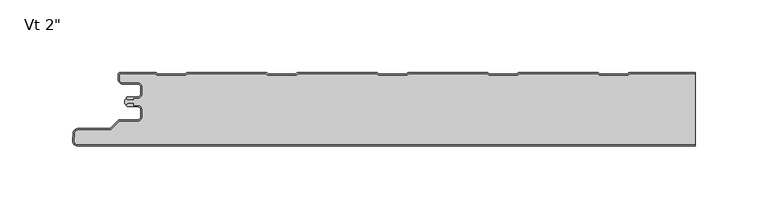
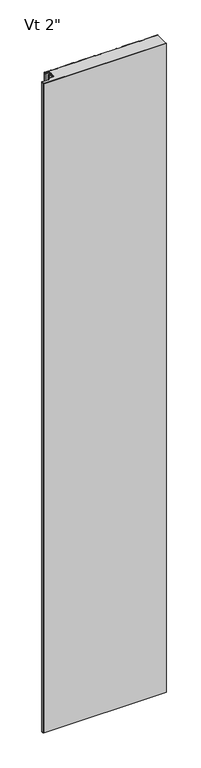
"""IFC4 building model written with IfcOpenShell, lengths in millimetres: plate geometry."""

from ifc_helpers import new_model, si_unit, point, frame, frame_2d, origin, origin_with_axes, place, context, project, spatial, polyline, circle_curve, trimmed, segment, composite_curve, outline, extrude, source, transform, mapped, element, save
from ifc_brep_helpers import plane_surface, cylinder_surface, revolved_surface, advanced_brep


def plate_e7e5032e(model_context):
    return source(origin(), model_context, "Body", "SolidModel", [
        advanced_brep(
        [(-195.5683, -22.4708751, 2400.0), (-194.367176, -21.3014003, 2400.0), (-190.6087826, -21.3014003, 2400.0), (-190.6087826, -22.6998792, 2400.0), (-187.9096715, -22.6998792, 2400.0), (-184.5596762, -26.0498745, 2400.0), (-184.5596762, -30.4498657, 2400.0), (-187.9096715, -33.799861, 2400.0), (-199.7205606, -33.799861, 2400.0), (-200.9226383, -34.2977779, 2400.0), (-206.4247094, -39.799849, 2400.0), (-228.519839, -39.7998491, 2400.0), (-231.1765707, -42.0184511, 2400.0), (-231.6125697, -47.0002719, 2400.0), (-229.0521174, -49.7945969, 2400.0), (196.5999999, -49.7999994, 2400.0), (196.5999998, -1.0063437, 2400.0), (151.3798585, -1.0063437, 2400.0), (149.9942255, -2.2065745, 2400.0), (130.6190592, -2.2065745, 2400.0), (129.2334262, -1.0063438, 2400.0), (75.1800109, -1.0063439, 2400.0), (73.7943779, -2.2065746, 2400.0), (54.4192116, -2.2065746, 2400.0), (53.0335786, -1.0063439, 2400.0), (-1.0198367, -1.006344, 2400.0), (-2.4054697, -2.2065747, 2400.0), (-21.780636, -2.2065748, 2400.0), (-23.166269, -1.0063441, 2400.0), (-77.2196843, -1.0063442, 2400.0), (-78.6053173, -2.2065749, 2400.0), (-97.9804836, -2.2065749, 2400.0), (-99.3661166, -1.0063442, 2400.0), (-153.4195319, -1.0063443, 2400.0), (-154.8051649, -2.206575, 2400.0), (-174.1803312, -2.206575, 2400.0), (-175.5659738, -1.006336, 2400.0), (-200.0662505, -1.006336, 2400.0), (-200.0662504, -5.2378833, 2400.0), (-198.2962563, -7.0078775, 2400.0), (-187.8762777, -7.0078775, 2400.0), (-184.5762818, -10.3078733, 2400.0), (-184.5762818, -14.7078646, 2400.0), (-187.8762775, -18.0078603, 2400.0), (-190.5684873, -18.0078603, 2400.0), (-190.5684873, -19.0078548, 2400.0), (-194.568691, -19.0078548, 2400.0), (-195.5686882, -18.0078635, 2400.0), (-196.5999999, -19.0391752, 2400.0), (-196.5999998, -21.4391752, 2400.0), (-195.5683, -22.4708751, 0.0), (-196.5999998, -21.4391752, 0.0), (-196.5999999, -19.0391752, 0.0), (-195.5686882, -18.0078635, 0.0), (-194.568691, -19.0078548, 0.0), (-190.5684873, -19.0078548, 0.0), (-190.5684873, -18.0078603, 0.0), (-187.8762775, -18.0078603, 0.0), (-184.5762818, -14.7078646, 0.0), (-184.5762818, -10.3078733, 0.0), (-187.8762777, -7.0078775, 0.0), (-198.2962563, -7.0078775, 0.0), (-200.0662504, -5.2378833, 0.0), (-200.0662505, -1.006336, 0.0), (-175.5659738, -1.006336, 0.0), (-174.1803312, -2.206575, 0.0), (-154.8051649, -2.206575, 0.0), (-153.4195319, -1.0063443, 0.0), (-99.3661166, -1.0063442, 0.0), (-97.9804836, -2.2065749, 0.0), (-78.6053173, -2.2065749, 0.0), (-77.2196843, -1.0063442, 0.0), (-23.166269, -1.0063441, 0.0), (-21.780636, -2.2065748, 0.0), (-2.4054697, -2.2065747, 0.0), (-1.0198367, -1.006344, 0.0), (53.0335786, -1.0063439, 0.0), (54.4192116, -2.2065746, 0.0), (73.7943779, -2.2065746, 0.0), (75.1800109, -1.0063439, 0.0), (129.2334262, -1.0063438, 0.0), (130.6190592, -2.2065745, 0.0), (149.9942255, -2.2065745, 0.0), (151.3798585, -1.0063437, 0.0), (196.5999998, -1.0063437, 0.0), (196.5999999, -49.7999994, 0.0), (-229.0521174, -49.8000001, 0.0), (-231.6125697, -47.0002719, 0.0), (-231.1765707, -42.0184511, 0.0), (-228.519839, -39.7998491, 0.0), (-206.4247094, -39.799849, 0.0), (-200.9226383, -34.2977779, 0.0), (-199.7205606, -33.799861, 0.0), (-187.9096715, -33.799861, 0.0), (-184.5596762, -30.4498657, 0.0), (-184.5596762, -26.0498745, 0.0), (-187.9096715, -22.6998792, 0.0), (-190.6087826, -22.6998792, 0.0), (-190.6087826, -21.3014003, 0.0), (-194.367176, -21.3014003, 0.0)],
        [
            (0, 1, circle_curve(frame((-194.3686906, -22.501397, 2400.0), z_axis=(0.0, 0.0, -1.0), x_axis=(-1.0, -1.788615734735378e-09, 0.0)), 1.1999976)),
            (1, 2),
            (2, 3),
            (3, 4),
            (4, 5, circle_curve(frame((-187.9096715, -26.0498745, 2400.0), z_axis=(0.0, 0.0, -1.0), x_axis=(-1.0, -1.788615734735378e-09, 0.0)), 3.3499953)),
            (5, 6),
            (6, 7, circle_curve(frame((-187.9096715, -30.4498657, 2400.0), z_axis=(0.0, 0.0, -1.0), x_axis=(-1.0, -1.788615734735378e-09, 0.0)), 3.3499953)),
            (7, 8),
            (8, 9, circle_curve(frame((-199.7205606, -35.4998556, 2400.0), z_axis=(0.0, 0.0, 1.0), x_axis=(-1.0, -1.788615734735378e-09, 0.0)), 1.6999946)),
            (9, 10),
            (10, 11),
            (11, 12, circle_curve(frame((-228.519839, -42.4998417, 2400.0), z_axis=(0.0, 0.0, 1.0), x_axis=(-1.0, -1.788615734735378e-09, 0.0)), 2.6999926)),
            (12, 13),
            (13, 14, circle_curve(frame((-229.0521174, -47.2243576, 2400.0), z_axis=(0.0, 0.0, 1.0), x_axis=(-1.0, -1.788615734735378e-09, 0.0)), 2.5702393)),
            (14, 15),
            (15, 16),
            (16, 17),
            (17, 18),
            (18, 19),
            (19, 20),
            (20, 21),
            (21, 22),
            (22, 23),
            (23, 24),
            (24, 25),
            (25, 26),
            (26, 27),
            (27, 28),
            (28, 29),
            (29, 30),
            (30, 31),
            (31, 32),
            (32, 33),
            (33, 34),
            (34, 35),
            (35, 36),
            (36, 37),
            (37, 38),
            (38, 39, circle_curve(frame((-198.2962563, -5.2378833, 2400.0), z_axis=(0.0, 0.0, 1.0), x_axis=(-1.0, -1.788615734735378e-09, 0.0)), 1.7699942)),
            (39, 40),
            (40, 41, circle_curve(frame((-187.8762777, -10.3078734, 2400.0), z_axis=(0.0, 0.0, -1.0), x_axis=(-1.0, -1.788615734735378e-09, 0.0)), 3.2999959)),
            (41, 42),
            (42, 43, circle_curve(frame((-187.8762775, -14.7078646, 2400.0), z_axis=(0.0, 0.0, -1.0), x_axis=(-1.0, -1.788615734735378e-09, 0.0)), 3.2999957)),
            (43, 44),
            (44, 45),
            (45, 46),
            (46, 47, circle_curve(frame((-194.568691, -18.0078576, 2400.0), z_axis=(0.0, 0.0, -1.0), x_axis=(-1.0, -1.788615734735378e-09, 0.0)), 0.9999972)),
            (47, 48),
            (48, 49),
            (49, 0),
            (50, 51),
            (51, 52),
            (52, 53),
            (53, 54, circle_curve(frame((-194.568691, -18.0078576, 0.0), z_axis=(0.0, 0.0, 1.0), x_axis=(-1.0, -1.788615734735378e-09, 0.0)), 0.9999972)),
            (54, 55),
            (55, 56),
            (56, 57),
            (57, 58, circle_curve(frame((-187.8762775, -14.7078646, 0.0), z_axis=(0.0, 0.0, 1.0), x_axis=(-1.0, -1.788615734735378e-09, 0.0)), 3.2999957)),
            (58, 59),
            (59, 60, circle_curve(frame((-187.8762777, -10.3078734, 0.0), z_axis=(0.0, 0.0, 1.0), x_axis=(-1.0, -1.788615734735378e-09, 0.0)), 3.2999959)),
            (60, 61),
            (61, 62, circle_curve(frame((-198.2962563, -5.2378833, 0.0), z_axis=(0.0, 0.0, -1.0), x_axis=(-1.0, -1.788615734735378e-09, 0.0)), 1.7699942)),
            (62, 63),
            (63, 64),
            (64, 65),
            (65, 66),
            (66, 67),
            (67, 68),
            (68, 69),
            (69, 70),
            (70, 71),
            (71, 72),
            (72, 73),
            (73, 74),
            (74, 75),
            (75, 76),
            (76, 77),
            (77, 78),
            (78, 79),
            (79, 80),
            (80, 81),
            (81, 82),
            (82, 83),
            (83, 84),
            (84, 85),
            (85, 86),
            (86, 87, circle_curve(frame((-229.0521174, -47.2243576, 0.0), z_axis=(0.0, 0.0, -1.0), x_axis=(-1.0, -1.788615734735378e-09, 0.0)), 2.5702393)),
            (87, 88),
            (88, 89, circle_curve(frame((-228.519839, -42.4998417, 0.0), z_axis=(0.0, 0.0, -1.0), x_axis=(-1.0, -1.788615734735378e-09, 0.0)), 2.6999926)),
            (89, 90),
            (90, 91),
            (91, 92, circle_curve(frame((-199.7205606, -35.4998556, 0.0), z_axis=(0.0, 0.0, -1.0), x_axis=(-1.0, -1.788615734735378e-09, 0.0)), 1.6999946)),
            (92, 93),
            (93, 94, circle_curve(frame((-187.9096715, -30.4498657, 0.0), z_axis=(0.0, 0.0, 1.0), x_axis=(-1.0, -1.788615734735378e-09, 0.0)), 3.3499953)),
            (94, 95),
            (95, 96, circle_curve(frame((-187.9096715, -26.0498745, 0.0), z_axis=(0.0, 0.0, 1.0), x_axis=(-1.0, -1.788615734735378e-09, 0.0)), 3.3499953)),
            (96, 97),
            (97, 98),
            (98, 99),
            (99, 50, circle_curve(frame((-194.3686906, -22.501397, 0.0), z_axis=(0.0, 0.0, 1.0), x_axis=(-1.0, -1.788615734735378e-09, 0.0)), 1.1999976)),
            (49, 51),
            (50, 0),
            (48, 52),
            (47, 53),
            (46, 54),
            (45, 55),
            (44, 56),
            (43, 57),
            (42, 58),
            (41, 59),
            (40, 60),
            (39, 61),
            (38, 62),
            (37, 63),
            (85, 15),
            (14, 86),
            (13, 87),
            (12, 88),
            (11, 89),
            (10, 90),
            (9, 91),
            (8, 92),
            (7, 93),
            (6, 94),
            (5, 95),
            (4, 96),
            (3, 97),
            (2, 98),
            (1, 99),
            (84, 16),
            (36, 64),
            (35, 65),
            (34, 66),
            (33, 67),
            (32, 68),
            (31, 69),
            (30, 70),
            (29, 71),
            (28, 72),
            (27, 73),
            (26, 74),
            (25, 75),
            (24, 76),
            (23, 77),
            (22, 78),
            (21, 79),
            (20, 80),
            (19, 81),
            (18, 82),
            (17, 83),
        ],
        [
            plane_surface(frame((336.8000002, -49.7999991, 2400.0), z_axis=(0.0, 0.0, 1.0), x_axis=(1.788615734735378e-09, -1.0, 0.0))),
            plane_surface(frame((336.8000002, -49.7999991, 0.0), z_axis=(0.0, 0.0, -1.0), x_axis=(1.788615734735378e-09, -1.0, 0.0))),
            plane_surface(frame((-195.5683, -22.4708751, 2400.0), z_axis=(-0.707106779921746, -0.7071067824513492, 0.0), x_axis=(0.0, 0.0, -1.0))),
            plane_surface(frame((-196.5999998, -21.4391752, 2400.0), z_axis=(-1.0, -1.788615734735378e-09, 0.0), x_axis=(0.0, 0.0, -1.0))),
            plane_surface(frame((-196.5999999, -19.0391752, 2400.0), z_axis=(-0.7071067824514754, 0.7071067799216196, 0.0), x_axis=(0.0, 0.0, -1.0))),
            revolved_surface(polyline([(-195.5686882, -18.00785760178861, 0.0), (-195.5686882, -18.00785760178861, 2400.0)]), (-194.568691, -18.0078576, 2400.0), (0.0, 0.0, -1.0)),
            plane_surface(frame((-194.568691, -19.0078548, 2400.0), z_axis=(-1.788615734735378e-09, 1.0, 0.0), x_axis=(0.0, 0.0, -1.0))),
            plane_surface(frame((-190.5684873, -19.0078548, 2400.0), z_axis=(-1.0, -1.788615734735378e-09, 0.0), x_axis=(0.0, 0.0, -1.0))),
            plane_surface(frame((-190.5684873, -18.0078603, 2400.0), z_axis=(-1.788615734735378e-09, 1.0, 0.0), x_axis=(0.0, 0.0, -1.0))),
            revolved_surface(polyline([(-191.1762732, -14.707864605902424, 0.0), (-191.1762732, -14.707864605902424, 2400.0)]), (-187.8762775, -14.7078646, 2400.0), (0.0, 0.0, -1.0)),
            plane_surface(frame((-184.5762818, -14.7078646, 2400.0), z_axis=(-1.0, -1.788615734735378e-09, 0.0), x_axis=(0.0, 0.0, -1.0))),
            revolved_surface(polyline([(-191.1762736, -10.307873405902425, 0.0), (-191.1762736, -10.307873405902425, 2400.0)]), (-187.8762777, -10.3078734, 2400.0), (0.0, 0.0, -1.0)),
            plane_surface(frame((-187.8762777, -7.0078775, 2400.0), z_axis=(1.788615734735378e-09, -1.0, 0.0), x_axis=(0.0, 0.0, -1.0))),
            cylinder_surface(frame((-198.2962563, -5.2378833, 2400.0), z_axis=(0.0, 0.0, 1.0), x_axis=(-1.0, -1.788615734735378e-09, 0.0)), 1.7699942),
            plane_surface(frame((-200.0662504, -5.2378833, 2400.0), z_axis=(-1.0, -1.788615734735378e-09, 0.0), x_axis=(0.0, 0.0, -1.0))),
            plane_surface(frame((828.0656222, -49.7999982, 2400.0), z_axis=(1.7886092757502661e-09, -1.0, 0.0), x_axis=(0.0, 0.0, -1.0))),
            cylinder_surface(frame((-229.0521174, -47.2243576, 2400.0), z_axis=(0.0, 0.0, 1.0), x_axis=(-1.0, -1.788615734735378e-09, 0.0)), 2.5702393),
            plane_surface(frame((-231.6125697, -47.0002719, 2400.0), z_axis=(-0.9961921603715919, 0.08718474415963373, 0.0), x_axis=(0.0, 0.0, -1.0))),
            cylinder_surface(frame((-228.519839, -42.4998417, 2400.0), z_axis=(0.0, 0.0, 1.0), x_axis=(-1.0, -1.788615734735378e-09, 0.0)), 2.6999926),
            plane_surface(frame((-228.519839, -39.7998491, 2400.0), z_axis=(-1.7886092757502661e-09, 1.0, 0.0), x_axis=(0.0, 0.0, -1.0))),
            plane_surface(frame((-206.4247094, -39.799849, 2400.0), z_axis=(-0.7071067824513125, 0.7071067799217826, 0.0), x_axis=(0.0, 0.0, -1.0))),
            cylinder_surface(frame((-199.7205606, -35.4998556, 2400.0), z_axis=(0.0, 0.0, 1.0), x_axis=(-1.0, -1.788615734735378e-09, 0.0)), 1.6999946),
            plane_surface(frame((-199.7205606, -33.799861, 2400.0), z_axis=(-1.7886092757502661e-09, 1.0, 0.0), x_axis=(0.0, 0.0, -1.0))),
            revolved_surface(polyline([(-191.2596668, -30.449865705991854, 0.0), (-191.2596668, -30.449865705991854, 2400.0)]), (-187.9096715, -30.4498657, 2400.0), (0.0, 0.0, -1.0)),
            plane_surface(frame((-184.5596762, -30.4498657, 2400.0), z_axis=(-1.0, -1.7886092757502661e-09, 0.0), x_axis=(0.0, 0.0, -1.0))),
            revolved_surface(polyline([(-191.2596668, -26.049874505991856, 0.0), (-191.2596668, -26.049874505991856, 2400.0)]), (-187.9096715, -26.0498745, 2400.0), (0.0, 0.0, -1.0)),
            plane_surface(frame((-187.9096715, -22.6998792, 2400.0), z_axis=(1.7886092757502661e-09, -1.0, 0.0), x_axis=(0.0, 0.0, -1.0))),
            plane_surface(frame((-190.6087826, -22.6998792, 2400.0), z_axis=(-1.0, -1.7886092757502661e-09, 0.0), x_axis=(0.0, 0.0, -1.0))),
            plane_surface(frame((-190.6087826, -21.3014003, 2400.0), z_axis=(1.7886092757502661e-09, -1.0, 0.0), x_axis=(0.0, 0.0, -1.0))),
            revolved_surface(polyline([(-195.5686882, -22.501397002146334, 0.0), (-195.5686882, -22.501397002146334, 2400.0)]), (-194.3686906, -22.501397, 2400.0), (0.0, 0.0, -1.0)),
            plane_surface(frame((196.5999999, -60.7999994, 2400.0), z_axis=(1.0, 1.7886125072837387e-09, 0.0), x_axis=(0.0, 0.0, -1.0))),
            plane_surface(frame((-200.0662505, -1.006336, 2400.0), z_axis=(-1.788615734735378e-09, 1.0, 0.0), x_axis=(0.0, 0.0, -1.0))),
            plane_surface(frame((-175.5659738, -1.006336, 2400.0), z_axis=(0.6547276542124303, 0.7558648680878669, 0.0), x_axis=(0.0, 0.0, -1.0))),
            plane_surface(frame((-174.1803312, -2.206575, 2400.0), z_axis=(-1.788615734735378e-09, 1.0, 0.0), x_axis=(0.0, 0.0, -1.0))),
            plane_surface(frame((-154.8051649, -2.206575, 2400.0), z_axis=(-0.6547276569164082, 0.7558648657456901, 0.0), x_axis=(0.0, 0.0, -1.0))),
            plane_surface(frame((-153.4195319, -1.0063443, 2400.0), z_axis=(-1.788615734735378e-09, 1.0, 0.0), x_axis=(0.0, 0.0, -1.0))),
            plane_surface(frame((-99.3661166, -1.0063442, 2400.0), z_axis=(0.654727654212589, 0.7558648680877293, 0.0), x_axis=(0.0, 0.0, -1.0))),
            plane_surface(frame((-97.9804836, -2.2065749, 2400.0), z_axis=(-1.788615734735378e-09, 1.0, 0.0), x_axis=(0.0, 0.0, -1.0))),
            plane_surface(frame((-78.6053173, -2.2065749, 2400.0), z_axis=(-0.6547276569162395, 0.7558648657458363, 0.0), x_axis=(0.0, 0.0, -1.0))),
            plane_surface(frame((-77.2196843, -1.0063442, 2400.0), z_axis=(-1.788615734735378e-09, 1.0, 0.0), x_axis=(0.0, 0.0, -1.0))),
            plane_surface(frame((-23.166269, -1.0063441, 2400.0), z_axis=(0.6547276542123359, 0.7558648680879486, 0.0), x_axis=(0.0, 0.0, -1.0))),
            plane_surface(frame((-21.780636, -2.2065748, 2400.0), z_axis=(-1.788615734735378e-09, 1.0, 0.0), x_axis=(0.0, 0.0, -1.0))),
            plane_surface(frame((-2.4054697, -2.2065747, 2400.0), z_axis=(-0.6547276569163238, 0.7558648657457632, 0.0), x_axis=(0.0, 0.0, -1.0))),
            plane_surface(frame((-1.0198367, -1.006344, 2400.0), z_axis=(-1.788615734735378e-09, 1.0, 0.0), x_axis=(0.0, 0.0, -1.0))),
            plane_surface(frame((53.0335786, -1.0063439, 2400.0), z_axis=(0.6547276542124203, 0.7558648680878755, 0.0), x_axis=(0.0, 0.0, -1.0))),
            plane_surface(frame((54.4192116, -2.2065746, 2400.0), z_axis=(-1.788615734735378e-09, 1.0, 0.0), x_axis=(0.0, 0.0, -1.0))),
            plane_surface(frame((73.7943779, -2.2065746, 2400.0), z_axis=(-0.6547276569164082, 0.7558648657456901, 0.0), x_axis=(0.0, 0.0, -1.0))),
            plane_surface(frame((75.1800109, -1.0063439, 2400.0), z_axis=(-1.788615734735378e-09, 1.0, 0.0), x_axis=(0.0, 0.0, -1.0))),
            plane_surface(frame((129.2334262, -1.0063438, 2400.0), z_axis=(0.6547276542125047, 0.7558648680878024, 0.0), x_axis=(0.0, 0.0, -1.0))),
            plane_surface(frame((130.6190592, -2.2065745, 2400.0), z_axis=(-1.788615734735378e-09, 1.0, 0.0), x_axis=(0.0, 0.0, -1.0))),
            plane_surface(frame((149.9942255, -2.2065745, 2400.0), z_axis=(-0.6547276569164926, 0.7558648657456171, 0.0), x_axis=(0.0, 0.0, -1.0))),
            plane_surface(frame((151.3798585, -1.0063437, 2400.0), z_axis=(-1.788615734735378e-09, 1.0, 0.0), x_axis=(0.0, 0.0, -1.0))),
        ],
        [
            (0, [[1, 2, 3, 4, 5, 6, 7, 8, 9, 10, 11, 12, 13, 14, 15, 16, 17, 18, 19, 20, 21, 22, 23, 24, 25, 26, 27, 28, 29, 30, 31, 32, 33, 34, 35, 36, 37, 38, 39, 40, 41, 42, 43, 44, 45, 46, 47, 48, 49, 50]]),
            (1, [[51, 52, 53, 54, 55, 56, 57, 58, 59, 60, 61, 62, 63, 64, 65, 66, 67, 68, 69, 70, 71, 72, 73, 74, 75, 76, 77, 78, 79, 80, 81, 82, 83, 84, 85, 86, 87, 88, 89, 90, 91, 92, 93, 94, 95, 96, 97, 98, 99, 100]]),
            (2, [[101, -51, 102, -50]]),
            (3, [[103, -52, -101, -49]]),
            (4, [[104, -53, -103, -48]]),
            (5, [[105, -54, -104, -47]]),
            (6, [[106, -55, -105, -46]]),
            (7, [[107, -56, -106, -45]]),
            (8, [[108, -57, -107, -44]]),
            (9, [[109, -58, -108, -43]]),
            (10, [[110, -59, -109, -42]]),
            (11, [[111, -60, -110, -41]]),
            (12, [[112, -61, -111, -40]]),
            (13, [[113, -62, -112, -39]]),
            (14, [[114, -63, -113, -38]]),
            (15, [[-86, 115, -15, 116]]),
            (16, [[117, -87, -116, -14]]),
            (17, [[118, -88, -117, -13]]),
            (18, [[119, -89, -118, -12]]),
            (19, [[120, -90, -119, -11]]),
            (20, [[121, -91, -120, -10]]),
            (21, [[122, -92, -121, -9]]),
            (22, [[123, -93, -122, -8]]),
            (23, [[124, -94, -123, -7]]),
            (24, [[125, -95, -124, -6]]),
            (25, [[126, -96, -125, -5]]),
            (26, [[127, -97, -126, -4]]),
            (27, [[128, -98, -127, -3]]),
            (28, [[129, -99, -128, -2]]),
            (29, [[-102, -100, -129, -1]]),
            (30, [[-115, -85, 130, -16]]),
            (31, [[131, -64, -114, -37]]),
            (32, [[132, -65, -131, -36]]),
            (33, [[133, -66, -132, -35]]),
            (34, [[134, -67, -133, -34]]),
            (35, [[135, -68, -134, -33]]),
            (36, [[136, -69, -135, -32]]),
            (37, [[137, -70, -136, -31]]),
            (38, [[138, -71, -137, -30]]),
            (39, [[139, -72, -138, -29]]),
            (40, [[140, -73, -139, -28]]),
            (41, [[141, -74, -140, -27]]),
            (42, [[142, -75, -141, -26]]),
            (43, [[143, -76, -142, -25]]),
            (44, [[144, -77, -143, -24]]),
            (45, [[145, -78, -144, -23]]),
            (46, [[146, -79, -145, -22]]),
            (47, [[147, -80, -146, -21]]),
            (48, [[148, -81, -147, -20]]),
            (49, [[149, -82, -148, -19]]),
            (50, [[150, -83, -149, -18]]),
            (51, [[-17, -130, -84, -150]]),
        ],
    ),
        advanced_brep(
        [(-194.568691, -17.001516, 2400.0), (-195.5686883, -18.0015192, 2400.0), (-194.568691, -19.0015105, 2400.0), (-190.5684874, -19.0015105, 2400.0), (-190.5684874, -18.001516, 2400.0), (-187.8762776, -18.001516, 2400.0), (-184.5762819, -14.7015203, 2400.0), (-184.5762819, -10.3015291, 2400.0), (-187.8762774, -7.0015336, 2400.0), (-198.2962563, -7.0015336, 2400.0), (-200.0662505, -5.2315394, 2400.0), (-200.0662505, -0.9999917, 2400.0), (-175.5659739, -0.9999917, 2400.0), (-174.1803313, -2.2002307, 2400.0), (-154.8051649, -2.2002307, 2400.0), (-153.419532, -1.0, 2400.0), (-99.3661166, -0.9999999, 2400.0), (-97.9804837, -2.2002306, 2400.0), (-78.6053173, -2.2002306, 2400.0), (-77.2196844, -0.9999999, 2400.0), (-23.166269, -0.9999998, 2400.0), (-21.7806361, -2.2002305, 2400.0), (-2.4054697, -2.2002304, 2400.0), (-1.0198368, -0.9999997, 2400.0), (53.0335786, -0.9999996, 2400.0), (54.4192115, -2.2002303, 2400.0), (73.7943779, -2.2002303, 2400.0), (75.1800108, -0.9999996, 2400.0), (129.2334262, -0.9999995, 2400.0), (130.6190591, -2.2002302, 2400.0), (149.9942255, -2.2002302, 2400.0), (151.3798584, -0.9999995, 2400.0), (196.5999998, -0.9999994, 2400.0), (196.5999998, 6e-07, 2400.0), (151.5290095, 5e-07, 2400.0), (150.6123927, -0.341788, 2400.0), (149.621345, -1.2002302, 2400.0), (130.9919396, -1.2002302, 2400.0), (130.0008919, -0.341788, 2400.0), (129.084275, 5e-07, 2400.0), (75.3291619, 4e-07, 2400.0), (74.4125451, -0.3417881, 2400.0), (73.4214974, -1.2002303, 2400.0), (54.792092, -1.2002303, 2400.0), (53.8010443, -0.3417881, 2400.0), (52.8844274, 4e-07, 2400.0), (-0.8706857, 3e-07, 2400.0), (-1.7873025, -0.3417882, 2400.0), (-2.7783502, -1.2002304, 2400.0), (-21.4077556, -1.2002305, 2400.0), (-22.3988033, -0.3417883, 2400.0), (-23.3154202, 2e-07, 2400.0), (-77.0705333, 1e-07, 2400.0), (-77.9871501, -0.3417884, 2400.0), (-78.9781978, -1.2002306, 2400.0), (-97.6076032, -1.2002306, 2400.0), (-98.5986509, -0.3417884, 2400.0), (-99.5152678, 1e-07, 2400.0), (-153.2703809, 0.0, 2400.0), (-154.1869977, -0.3417885, 2400.0), (-155.1780454, -1.2002307, 2400.0), (-173.8074508, -1.2002307, 2400.0), (-174.7984985, -0.3417885, 2400.0), (-175.7152068, 0.0, 2400.0), (-199.6662544, 8.3e-06, 2400.0), (-201.0662505, -1.3999879, 2400.0), (-201.0662505, -5.2315394, 2400.0), (-198.2962563, -8.0015336, 2400.0), (-187.8762774, -8.0015336, 2400.0), (-185.5762819, -10.3015291, 2400.0), (-185.5762819, -14.7015203, 2400.0), (-187.8762776, -17.001516, 2400.0), (-194.568691, -17.001516, 0.0), (-187.8762776, -17.001516, 0.0), (-185.5762819, -14.7015203, 0.0), (-185.5762819, -10.3015291, 0.0), (-187.8762774, -8.0015336, 0.0), (-198.2962563, -8.0015336, 0.0), (-201.0662505, -5.2315394, 0.0), (-201.0662505, -1.3999879, 0.0), (-199.6662544, 8.3e-06, 0.0), (-175.7151154, 8.3e-06, 0.0), (-174.7984985, -0.3417885, 0.0), (-173.8074508, -1.2002307, 0.0), (-155.1780454, -1.2002307, 0.0), (-154.1869977, -0.3417885, 0.0), (-153.2703809, 0.0, 0.0), (-99.5152678, 1e-07, 0.0), (-98.5986509, -0.3417884, 0.0), (-97.6076032, -1.2002306, 0.0), (-78.9781978, -1.2002306, 0.0), (-77.9871501, -0.3417884, 0.0), (-77.0705333, 1e-07, 0.0), (-23.3154202, 2e-07, 0.0), (-22.3988033, -0.3417883, 0.0), (-21.4077556, -1.2002305, 0.0), (-2.7783502, -1.2002304, 0.0), (-1.7873025, -0.3417882, 0.0), (-0.8706857, 3e-07, 0.0), (52.8844274, 4e-07, 0.0), (53.8010443, -0.3417881, 0.0), (54.792092, -1.2002303, 0.0), (73.4214974, -1.2002303, 0.0), (74.4125451, -0.3417881, 0.0), (75.3291619, 4e-07, 0.0), (129.084275, 5e-07, 0.0), (130.0008919, -0.341788, 0.0), (130.9919396, -1.2002302, 0.0), (149.621345, -1.2002302, 0.0), (150.6123927, -0.341788, 0.0), (151.5290095, 5e-07, 0.0), (196.5999998, 6e-07, 0.0), (196.5999998, -0.9999994, 0.0), (151.3798584, -0.9999995, 0.0), (149.9942255, -2.2002302, 0.0), (130.6190591, -2.2002302, 0.0), (129.2334262, -0.9999995, 0.0), (75.1800108, -0.9999996, 0.0), (73.7943779, -2.2002303, 0.0), (54.4192115, -2.2002303, 0.0), (53.0335786, -0.9999996, 0.0), (-1.0198368, -0.9999997, 0.0), (-2.4054697, -2.2002304, 0.0), (-21.7806361, -2.2002305, 0.0), (-23.166269, -0.9999998, 0.0), (-77.2196844, -0.9999999, 0.0), (-78.6053173, -2.2002306, 0.0), (-97.9804837, -2.2002306, 0.0), (-99.3661166, -0.9999999, 0.0), (-153.419532, -1.0, 0.0), (-154.8051649, -2.2002307, 0.0), (-174.1803313, -2.2002307, 0.0), (-175.5659739, -0.9999917, 0.0), (-200.0662505, -0.9999917, 0.0), (-200.0662505, -5.2315394, 0.0), (-198.2962563, -7.0015336, 0.0), (-187.8762774, -7.0015336, 0.0), (-184.5762819, -10.3015291, 0.0), (-184.5762819, -14.7015203, 0.0), (-187.8762776, -18.001516, 0.0), (-190.5684874, -18.001516, 0.0), (-190.5684874, -19.0015105, 0.0), (-194.568691, -19.0015105, 0.0), (-195.5686882, -18.0015193, 0.0)],
        [
            (0, 1, circle_curve(frame((-194.568691, -18.0015133, 2400.0), z_axis=(0.0, 0.0, 1.0), x_axis=(1.0, 1.7886125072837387e-09, 0.0)), 0.9999973)),
            (1, 2, circle_curve(frame((-194.568691, -18.0015133, 2400.0), z_axis=(0.0, 0.0, 1.0), x_axis=(1.0, 1.7886125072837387e-09, 0.0)), 0.9999972)),
            (2, 3),
            (3, 4),
            (4, 5),
            (5, 6, circle_curve(frame((-187.8762776, -14.7015203, 2400.0), z_axis=(0.0, 0.0, 1.0), x_axis=(1.0, 1.7886125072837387e-09, 0.0)), 3.2999957)),
            (6, 7),
            (7, 8, circle_curve(frame((-187.8762774, -10.3015291, 2400.0), z_axis=(0.0, 0.0, 1.0), x_axis=(1.0, 1.7886125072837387e-09, 0.0)), 3.2999955)),
            (8, 9),
            (9, 10, circle_curve(frame((-198.2962563, -5.2315394, 2400.0), z_axis=(0.0, 0.0, -1.0), x_axis=(1.0, 1.7886125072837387e-09, 0.0)), 1.7699942)),
            (10, 11),
            (11, 12),
            (12, 13),
            (13, 14),
            (14, 15),
            (15, 16),
            (16, 17),
            (17, 18),
            (18, 19),
            (19, 20),
            (20, 21),
            (21, 22),
            (22, 23),
            (23, 24),
            (24, 25),
            (25, 26),
            (26, 27),
            (27, 28),
            (28, 29),
            (29, 30),
            (30, 31),
            (31, 32),
            (32, 33),
            (33, 34),
            (34, 35, circle_curve(frame((151.5290095, -1.3999967, 2400.0), z_axis=(0.0, 0.0, 1.0), x_axis=(1.0, 1.7886125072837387e-09, 0.0)), 1.3999972)),
            (35, 36),
            (36, 37),
            (37, 38),
            (38, 39, circle_curve(frame((129.084275, -1.3999967, 2400.0), z_axis=(0.0, 0.0, 1.0), x_axis=(1.0, 1.7886125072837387e-09, 0.0)), 1.3999972)),
            (39, 40),
            (40, 41, circle_curve(frame((75.3291619, -1.3999968, 2400.0), z_axis=(0.0, 0.0, 1.0), x_axis=(1.0, 1.7886125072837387e-09, 0.0)), 1.3999972)),
            (41, 42),
            (42, 43),
            (43, 44),
            (44, 45, circle_curve(frame((52.8844274, -1.3999968, 2400.0), z_axis=(0.0, 0.0, 1.0), x_axis=(1.0, 1.7886125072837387e-09, 0.0)), 1.3999972)),
            (45, 46),
            (46, 47, circle_curve(frame((-0.8706857, -1.3999969, 2400.0), z_axis=(0.0, 0.0, 1.0), x_axis=(1.0, 1.7886125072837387e-09, 0.0)), 1.3999972)),
            (47, 48),
            (48, 49),
            (49, 50),
            (50, 51, circle_curve(frame((-23.3154202, -1.399997, 2400.0), z_axis=(0.0, 0.0, 1.0), x_axis=(1.0, 1.7886125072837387e-09, 0.0)), 1.3999972)),
            (51, 52),
            (52, 53, circle_curve(frame((-77.0705333, -1.3999971, 2400.0), z_axis=(0.0, 0.0, 1.0), x_axis=(1.0, 1.7886125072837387e-09, 0.0)), 1.3999972)),
            (53, 54),
            (54, 55),
            (55, 56),
            (56, 57, circle_curve(frame((-99.5152678, -1.3999971, 2400.0), z_axis=(0.0, 0.0, 1.0), x_axis=(1.0, 1.7886125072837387e-09, 0.0)), 1.3999972)),
            (57, 58),
            (58, 59, circle_curve(frame((-153.2703809, -1.3999972, 2400.0), z_axis=(0.0, 0.0, 1.0), x_axis=(1.0, 1.7886125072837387e-09, 0.0)), 1.3999972)),
            (59, 60),
            (60, 61),
            (61, 62),
            (62, 63, circle_curve(frame((-175.7151154, -1.3999972, 2400.0), z_axis=(0.0, 0.0, 1.0), x_axis=(1.0, 1.7886125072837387e-09, 0.0)), 1.3999972)),
            (63, 64),
            (64, 65, circle_curve(frame((-199.6662543, -1.3999879, 2400.0), z_axis=(0.0, 0.0, 1.0), x_axis=(1.0, 1.7886125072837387e-09, 0.0)), 1.3999962)),
            (65, 66),
            (66, 67, circle_curve(frame((-198.2962563, -5.2315394, 2400.0), z_axis=(0.0, 0.0, 1.0), x_axis=(1.0, 1.7886125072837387e-09, 0.0)), 2.7699942)),
            (67, 68),
            (68, 69, circle_curve(frame((-187.8762774, -10.3015291, 2400.0), z_axis=(0.0, 0.0, -1.0), x_axis=(1.0, 1.7886125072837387e-09, 0.0)), 2.2999955)),
            (69, 70),
            (70, 71, circle_curve(frame((-187.8762776, -14.7015203, 2400.0), z_axis=(0.0, 0.0, -1.0), x_axis=(1.0, 1.7886125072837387e-09, 0.0)), 2.2999957)),
            (71, 0),
            (72, 73),
            (73, 74, circle_curve(frame((-187.8762776, -14.7015203, 0.0), z_axis=(0.0, 0.0, 1.0), x_axis=(1.0, 1.7886125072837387e-09, 0.0)), 2.2999957)),
            (74, 75),
            (75, 76, circle_curve(frame((-187.8762774, -10.3015291, 0.0), z_axis=(0.0, 0.0, 1.0), x_axis=(1.0, 1.7886125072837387e-09, 0.0)), 2.2999955)),
            (76, 77),
            (77, 78, circle_curve(frame((-198.2962563, -5.2315394, 0.0), z_axis=(0.0, 0.0, -1.0), x_axis=(1.0, 1.7886125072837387e-09, 0.0)), 2.7699942)),
            (78, 79),
            (79, 80, circle_curve(frame((-199.6662543, -1.3999879, 0.0), z_axis=(0.0, 0.0, -1.0), x_axis=(1.0, 1.7886125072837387e-09, 0.0)), 1.3999962)),
            (80, 81),
            (81, 82, circle_curve(frame((-175.7151154, -1.3999972, 0.0), z_axis=(0.0, 0.0, -1.0), x_axis=(1.0, 1.7886125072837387e-09, 0.0)), 1.3999972)),
            (82, 83),
            (83, 84),
            (84, 85),
            (85, 86, circle_curve(frame((-153.2703809, -1.3999972, 0.0), z_axis=(0.0, 0.0, -1.0), x_axis=(1.0, 1.7886125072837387e-09, 0.0)), 1.3999972)),
            (86, 87),
            (87, 88, circle_curve(frame((-99.5152678, -1.3999971, 0.0), z_axis=(0.0, 0.0, -1.0), x_axis=(1.0, 1.7886125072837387e-09, 0.0)), 1.3999972)),
            (88, 89),
            (89, 90),
            (90, 91),
            (91, 92, circle_curve(frame((-77.0705333, -1.3999971, 0.0), z_axis=(0.0, 0.0, -1.0), x_axis=(1.0, 1.7886125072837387e-09, 0.0)), 1.3999972)),
            (92, 93),
            (93, 94, circle_curve(frame((-23.3154202, -1.399997, 0.0), z_axis=(0.0, 0.0, -1.0), x_axis=(1.0, 1.7886125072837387e-09, 0.0)), 1.3999972)),
            (94, 95),
            (95, 96),
            (96, 97),
            (97, 98, circle_curve(frame((-0.8706857, -1.3999969, 0.0), z_axis=(0.0, 0.0, -1.0), x_axis=(1.0, 1.7886125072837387e-09, 0.0)), 1.3999972)),
            (98, 99),
            (99, 100, circle_curve(frame((52.8844274, -1.3999968, 0.0), z_axis=(0.0, 0.0, -1.0), x_axis=(1.0, 1.7886125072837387e-09, 0.0)), 1.3999972)),
            (100, 101),
            (101, 102),
            (102, 103),
            (103, 104, circle_curve(frame((75.3291619, -1.3999968, 0.0), z_axis=(0.0, 0.0, -1.0), x_axis=(1.0, 1.7886125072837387e-09, 0.0)), 1.3999972)),
            (104, 105),
            (105, 106, circle_curve(frame((129.084275, -1.3999967, 0.0), z_axis=(0.0, 0.0, -1.0), x_axis=(1.0, 1.7886125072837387e-09, 0.0)), 1.3999972)),
            (106, 107),
            (107, 108),
            (108, 109),
            (109, 110, circle_curve(frame((151.5290095, -1.3999967, 0.0), z_axis=(0.0, 0.0, -1.0), x_axis=(1.0, 1.7886125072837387e-09, 0.0)), 1.3999972)),
            (110, 111),
            (111, 112),
            (112, 113),
            (113, 114),
            (114, 115),
            (115, 116),
            (116, 117),
            (117, 118),
            (118, 119),
            (119, 120),
            (120, 121),
            (121, 122),
            (122, 123),
            (123, 124),
            (124, 125),
            (125, 126),
            (126, 127),
            (127, 128),
            (128, 129),
            (129, 130),
            (130, 131),
            (131, 132),
            (132, 133),
            (133, 134),
            (134, 135, circle_curve(frame((-198.2962563, -5.2315394, 0.0), z_axis=(0.0, 0.0, 1.0), x_axis=(1.0, 1.7886125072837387e-09, 0.0)), 1.7699942)),
            (135, 136),
            (136, 137, circle_curve(frame((-187.8762774, -10.3015291, 0.0), z_axis=(0.0, 0.0, -1.0), x_axis=(1.0, 1.7886125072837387e-09, 0.0)), 3.2999955)),
            (137, 138),
            (138, 139, circle_curve(frame((-187.8762776, -14.7015203, 0.0), z_axis=(0.0, 0.0, -1.0), x_axis=(1.0, 1.7886125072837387e-09, 0.0)), 3.2999957)),
            (139, 140),
            (140, 141),
            (141, 142),
            (142, 143, circle_curve(frame((-194.568691, -18.0015133, 0.0), z_axis=(0.0, 0.0, -1.0), x_axis=(1.0, 1.7886125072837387e-09, 0.0)), 0.9999972)),
            (143, 72, circle_curve(frame((-194.568691, -18.0015133, 0.0), z_axis=(0.0, 0.0, -1.0), x_axis=(1.0, 1.7886125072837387e-09, 0.0)), 0.9999973)),
            (32, 112),
            (111, 33),
            (71, 73),
            (72, 0),
            (70, 74),
            (69, 75),
            (68, 76),
            (67, 77),
            (66, 78),
            (65, 79),
            (64, 80),
            (63, 81),
            (62, 82),
            (61, 83),
            (60, 84),
            (59, 85),
            (58, 86),
            (57, 87),
            (56, 88),
            (55, 89),
            (54, 90),
            (53, 91),
            (52, 92),
            (51, 93),
            (50, 94),
            (49, 95),
            (48, 96),
            (47, 97),
            (46, 98),
            (45, 99),
            (44, 100),
            (43, 101),
            (42, 102),
            (41, 103),
            (40, 104),
            (39, 105),
            (38, 106),
            (37, 107),
            (36, 108),
            (35, 109),
            (34, 110),
            (31, 113),
            (30, 114),
            (29, 115),
            (28, 116),
            (27, 117),
            (26, 118),
            (25, 119),
            (24, 120),
            (23, 121),
            (22, 122),
            (21, 123),
            (20, 124),
            (19, 125),
            (18, 126),
            (17, 127),
            (16, 128),
            (15, 129),
            (14, 130),
            (13, 131),
            (12, 132),
            (11, 133),
            (10, 134),
            (9, 135),
            (8, 136),
            (7, 137),
            (6, 138),
            (5, 139),
            (4, 140),
            (3, 141),
            (2, 142),
            (1, 143),
        ],
        [
            plane_surface(frame((336.8000001, 9e-07, 2400.0), z_axis=(0.0, 0.0, 1.0), x_axis=(-1.7886125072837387e-09, 1.0, 0.0))),
            plane_surface(frame((336.8000001, 9e-07, 0.0), z_axis=(0.0, 0.0, -1.0), x_axis=(-1.7886125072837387e-09, 1.0, 0.0))),
            plane_surface(frame((196.5999999, -60.7999994, 2400.0), z_axis=(1.0, 1.7886125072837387e-09, 0.0), x_axis=(0.0, 0.0, -1.0))),
            plane_surface(frame((-194.568691, -17.001516, 2400.0), z_axis=(-1.7886125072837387e-09, 1.0, 0.0), x_axis=(0.0, 0.0, -1.0))),
            revolved_surface(polyline([(-185.5762819, -14.7015202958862, 0.0), (-185.5762819, -14.7015202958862, 2400.0)]), (-187.8762776, -14.7015203, 2400.0), (0.0, 0.0, -1.0)),
            plane_surface(frame((-185.5762819, -14.7015203, 2400.0), z_axis=(-1.0, -1.7886125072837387e-09, 0.0), x_axis=(0.0, 0.0, -1.0))),
            revolved_surface(polyline([(-185.5762819, -10.301529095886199, 0.0), (-185.5762819, -10.301529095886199, 2400.0)]), (-187.8762774, -10.3015291, 2400.0), (0.0, 0.0, -1.0)),
            plane_surface(frame((-187.8762774, -8.0015336, 2400.0), z_axis=(1.7886125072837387e-09, -1.0, 0.0), x_axis=(0.0, 0.0, -1.0))),
            cylinder_surface(frame((-198.2962563, -5.2315394, 2400.0), z_axis=(0.0, 0.0, 1.0), x_axis=(1.0, 1.7886125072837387e-09, 0.0)), 2.7699942),
            plane_surface(frame((-201.0662505, -5.2315394, 2400.0), z_axis=(-1.0, -1.7886125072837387e-09, 0.0), x_axis=(0.0, 0.0, -1.0))),
            cylinder_surface(frame((-199.6662543, -1.3999879, 2400.0), z_axis=(0.0, 0.0, 1.0), x_axis=(1.0, 1.7886125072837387e-09, 0.0)), 1.3999962),
            plane_surface(frame((-199.6662544, 8.3e-06, 2400.0), z_axis=(-1.7886125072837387e-09, 1.0, 0.0), x_axis=(0.0, 0.0, -1.0))),
            cylinder_surface(frame((-175.7151154, -1.3999972, 2400.0), z_axis=(0.0, 0.0, 1.0), x_axis=(1.0, 1.7886125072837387e-09, 0.0)), 1.3999972),
            plane_surface(frame((-174.7984985, -0.3417885, 2400.0), z_axis=(0.6547276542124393, 0.755864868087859, 0.0), x_axis=(0.0, 0.0, -1.0))),
            plane_surface(frame((-164.4927481, -1.2002307, 2400.0), z_axis=(-1.7886125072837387e-09, 1.0, 0.0), x_axis=(0.0, 0.0, -1.0))),
            plane_surface(frame((-155.1780454, -1.2002307, 2400.0), z_axis=(-0.6547276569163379, 0.755864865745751, 0.0), x_axis=(0.0, 0.0, -1.0))),
            cylinder_surface(frame((-153.2703809, -1.3999972, 2400.0), z_axis=(0.0, 0.0, 1.0), x_axis=(1.0, 1.7886125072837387e-09, 0.0)), 1.3999972),
            plane_surface(frame((-153.2703809, 0.0, 2400.0), z_axis=(-1.7886074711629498e-09, 1.0, 0.0), x_axis=(0.0, 0.0, -1.0))),
            cylinder_surface(frame((-99.5152678, -1.3999971, 2400.0), z_axis=(0.0, 0.0, 1.0), x_axis=(1.0, 1.7886125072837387e-09, 0.0)), 1.3999972),
            plane_surface(frame((-98.5986509, -0.3417884, 2400.0), z_axis=(0.6547276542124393, 0.755864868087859, 0.0), x_axis=(0.0, 0.0, -1.0))),
            plane_surface(frame((-88.2929005, -1.2002306, 2400.0), z_axis=(-1.7886125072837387e-09, 1.0, 0.0), x_axis=(0.0, 0.0, -1.0))),
            plane_surface(frame((-78.9781978, -1.2002306, 2400.0), z_axis=(-0.6547276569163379, 0.755864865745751, 0.0), x_axis=(0.0, 0.0, -1.0))),
            cylinder_surface(frame((-77.0705333, -1.3999971, 2400.0), z_axis=(0.0, 0.0, 1.0), x_axis=(1.0, 1.7886125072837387e-09, 0.0)), 1.3999972),
            plane_surface(frame((-77.0705333, 1e-07, 2400.0), z_axis=(-1.7886074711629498e-09, 1.0, 0.0), x_axis=(0.0, 0.0, -1.0))),
            cylinder_surface(frame((-23.3154202, -1.399997, 2400.0), z_axis=(0.0, 0.0, 1.0), x_axis=(1.0, 1.7886125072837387e-09, 0.0)), 1.3999972),
            plane_surface(frame((-22.3988033, -0.3417883, 2400.0), z_axis=(0.6547276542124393, 0.755864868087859, 0.0), x_axis=(0.0, 0.0, -1.0))),
            plane_surface(frame((-12.0930529, -1.2002305, 2400.0), z_axis=(-1.7886125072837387e-09, 1.0, 0.0), x_axis=(0.0, 0.0, -1.0))),
            plane_surface(frame((-2.7783502, -1.2002304, 2400.0), z_axis=(-0.6547276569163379, 0.755864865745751, 0.0), x_axis=(0.0, 0.0, -1.0))),
            cylinder_surface(frame((-0.8706857, -1.3999969, 2400.0), z_axis=(0.0, 0.0, 1.0), x_axis=(1.0, 1.7886125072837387e-09, 0.0)), 1.3999972),
            plane_surface(frame((-0.8706857, 3e-07, 2400.0), z_axis=(-1.7886074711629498e-09, 1.0, 0.0), x_axis=(0.0, 0.0, -1.0))),
            cylinder_surface(frame((52.8844274, -1.3999968, 2400.0), z_axis=(0.0, 0.0, 1.0), x_axis=(1.0, 1.7886125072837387e-09, 0.0)), 1.3999972),
            plane_surface(frame((53.8010443, -0.3417881, 2400.0), z_axis=(0.6547276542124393, 0.755864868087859, 0.0), x_axis=(0.0, 0.0, -1.0))),
            plane_surface(frame((64.1067947, -1.2002303, 2400.0), z_axis=(-1.7886125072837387e-09, 1.0, 0.0), x_axis=(0.0, 0.0, -1.0))),
            plane_surface(frame((73.4214974, -1.2002303, 2400.0), z_axis=(-0.6547276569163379, 0.755864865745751, 0.0), x_axis=(0.0, 0.0, -1.0))),
            cylinder_surface(frame((75.3291619, -1.3999968, 2400.0), z_axis=(0.0, 0.0, 1.0), x_axis=(1.0, 1.7886125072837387e-09, 0.0)), 1.3999972),
            plane_surface(frame((75.3291619, 4e-07, 2400.0), z_axis=(-1.7886074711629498e-09, 1.0, 0.0), x_axis=(0.0, 0.0, -1.0))),
            cylinder_surface(frame((129.084275, -1.3999967, 2400.0), z_axis=(0.0, 0.0, 1.0), x_axis=(1.0, 1.7886125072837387e-09, 0.0)), 1.3999972),
            plane_surface(frame((130.0008919, -0.341788, 2400.0), z_axis=(0.6547276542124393, 0.755864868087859, 0.0), x_axis=(0.0, 0.0, -1.0))),
            plane_surface(frame((140.3066423, -1.2002302, 2400.0), z_axis=(-1.7886125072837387e-09, 1.0, 0.0), x_axis=(0.0, 0.0, -1.0))),
            plane_surface(frame((149.621345, -1.2002302, 2400.0), z_axis=(-0.6547276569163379, 0.755864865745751, 0.0), x_axis=(0.0, 0.0, -1.0))),
            cylinder_surface(frame((151.5290095, -1.3999967, 2400.0), z_axis=(0.0, 0.0, 1.0), x_axis=(1.0, 1.7886125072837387e-09, 0.0)), 1.3999972),
            plane_surface(frame((151.5290095, 5e-07, 2400.0), z_axis=(-1.7886074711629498e-09, 1.0, 0.0), x_axis=(0.0, 0.0, -1.0))),
            plane_surface(frame((205.4332738, -0.9999994, 2400.0), z_axis=(1.7886074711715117e-09, -1.0, 0.0), x_axis=(0.0, 0.0, -1.0))),
            plane_surface(frame((151.3798584, -0.9999995, 2400.0), z_axis=(0.6547276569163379, -0.755864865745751, 0.0), x_axis=(0.0, 0.0, -1.0))),
            plane_surface(frame((149.9942255, -2.2002302, 2400.0), z_axis=(1.7886125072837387e-09, -1.0, 0.0), x_axis=(0.0, 0.0, -1.0))),
            plane_surface(frame((130.6190591, -2.2002302, 2400.0), z_axis=(-0.6547276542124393, -0.755864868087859, 0.0), x_axis=(0.0, 0.0, -1.0))),
            plane_surface(frame((129.2334262, -0.9999995, 2400.0), z_axis=(1.7886074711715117e-09, -1.0, 0.0), x_axis=(0.0, 0.0, -1.0))),
            plane_surface(frame((75.1800108, -0.9999996, 2400.0), z_axis=(0.6547276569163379, -0.755864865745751, 0.0), x_axis=(0.0, 0.0, -1.0))),
            plane_surface(frame((73.7943779, -2.2002303, 2400.0), z_axis=(1.7886125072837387e-09, -1.0, 0.0), x_axis=(0.0, 0.0, -1.0))),
            plane_surface(frame((54.4192115, -2.2002303, 2400.0), z_axis=(-0.6547276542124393, -0.755864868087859, 0.0), x_axis=(0.0, 0.0, -1.0))),
            plane_surface(frame((53.0335786, -0.9999996, 2400.0), z_axis=(1.7886074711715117e-09, -1.0, 0.0), x_axis=(0.0, 0.0, -1.0))),
            plane_surface(frame((-1.0198368, -0.9999997, 2400.0), z_axis=(0.6547276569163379, -0.755864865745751, 0.0), x_axis=(0.0, 0.0, -1.0))),
            plane_surface(frame((-2.4054697, -2.2002304, 2400.0), z_axis=(1.7886125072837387e-09, -1.0, 0.0), x_axis=(0.0, 0.0, -1.0))),
            plane_surface(frame((-21.7806361, -2.2002305, 2400.0), z_axis=(-0.6547276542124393, -0.755864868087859, 0.0), x_axis=(0.0, 0.0, -1.0))),
            plane_surface(frame((-23.166269, -0.9999998, 2400.0), z_axis=(1.7886074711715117e-09, -1.0, 0.0), x_axis=(0.0, 0.0, -1.0))),
            plane_surface(frame((-77.2196844, -0.9999999, 2400.0), z_axis=(0.6547276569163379, -0.755864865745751, 0.0), x_axis=(0.0, 0.0, -1.0))),
            plane_surface(frame((-78.6053173, -2.2002306, 2400.0), z_axis=(1.7886125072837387e-09, -1.0, 0.0), x_axis=(0.0, 0.0, -1.0))),
            plane_surface(frame((-97.9804837, -2.2002306, 2400.0), z_axis=(-0.6547276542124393, -0.755864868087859, 0.0), x_axis=(0.0, 0.0, -1.0))),
            plane_surface(frame((-99.3661166, -0.9999999, 2400.0), z_axis=(1.7886074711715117e-09, -1.0, 0.0), x_axis=(0.0, 0.0, -1.0))),
            plane_surface(frame((-153.419532, -1.0, 2400.0), z_axis=(0.6547276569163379, -0.755864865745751, 0.0), x_axis=(0.0, 0.0, -1.0))),
            plane_surface(frame((-154.8051649, -2.2002307, 2400.0), z_axis=(1.7886125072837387e-09, -1.0, 0.0), x_axis=(0.0, 0.0, -1.0))),
            plane_surface(frame((-174.1803313, -2.2002307, 2400.0), z_axis=(-0.6547276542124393, -0.755864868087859, 0.0), x_axis=(0.0, 0.0, -1.0))),
            plane_surface(frame((-175.5659739, -0.9999917, 2400.0), z_axis=(1.7886125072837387e-09, -1.0, 0.0), x_axis=(0.0, 0.0, -1.0))),
            plane_surface(frame((-200.0662505, -0.9999917, 2400.0), z_axis=(1.0, 1.7886125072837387e-09, 0.0), x_axis=(0.0, 0.0, -1.0))),
            revolved_surface(polyline([(-196.5262621, -5.231539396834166, 0.0), (-196.5262621, -5.231539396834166, 2400.0)]), (-198.2962563, -5.2315394, 2400.0), (0.0, 0.0, -1.0)),
            plane_surface(frame((-198.2962563, -7.0015336, 2400.0), z_axis=(-1.7886125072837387e-09, 1.0, 0.0), x_axis=(0.0, 0.0, -1.0))),
            cylinder_surface(frame((-187.8762774, -10.3015291, 2400.0), z_axis=(0.0, 0.0, 1.0), x_axis=(1.0, 1.7886125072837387e-09, 0.0)), 3.2999955),
            plane_surface(frame((-184.5762819, -10.3015291, 2400.0), z_axis=(1.0, 1.7886125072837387e-09, 0.0), x_axis=(0.0, 0.0, -1.0))),
            cylinder_surface(frame((-187.8762776, -14.7015203, 2400.0), z_axis=(0.0, 0.0, 1.0), x_axis=(1.0, 1.7886125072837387e-09, 0.0)), 3.2999957),
            plane_surface(frame((-187.8762776, -18.001516, 2400.0), z_axis=(1.7886125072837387e-09, -1.0, 0.0), x_axis=(0.0, 0.0, -1.0))),
            plane_surface(frame((-190.5684874, -18.001516, 2400.0), z_axis=(1.0, 1.7886125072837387e-09, 0.0), x_axis=(0.0, 0.0, -1.0))),
            plane_surface(frame((-190.5684874, -19.0015105, 2400.0), z_axis=(1.7886125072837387e-09, -1.0, 0.0), x_axis=(0.0, 0.0, -1.0))),
            cylinder_surface(frame((-194.568691, -18.0015133, 2400.0), z_axis=(0.0, 0.0, 1.0), x_axis=(1.0, 1.7886125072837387e-09, 0.0)), 0.9999972),
            cylinder_surface(frame((-194.568691, -18.0015133, 2400.0), z_axis=(0.0, 0.0, 1.0), x_axis=(1.0, 1.7886125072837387e-09, 0.0)), 0.9999973),
        ],
        [
            (0, [[1, 2, 3, 4, 5, 6, 7, 8, 9, 10, 11, 12, 13, 14, 15, 16, 17, 18, 19, 20, 21, 22, 23, 24, 25, 26, 27, 28, 29, 30, 31, 32, 33, 34, 35, 36, 37, 38, 39, 40, 41, 42, 43, 44, 45, 46, 47, 48, 49, 50, 51, 52, 53, 54, 55, 56, 57, 58, 59, 60, 61, 62, 63, 64, 65, 66, 67, 68, 69, 70, 71, 72]]),
            (1, [[73, 74, 75, 76, 77, 78, 79, 80, 81, 82, 83, 84, 85, 86, 87, 88, 89, 90, 91, 92, 93, 94, 95, 96, 97, 98, 99, 100, 101, 102, 103, 104, 105, 106, 107, 108, 109, 110, 111, 112, 113, 114, 115, 116, 117, 118, 119, 120, 121, 122, 123, 124, 125, 126, 127, 128, 129, 130, 131, 132, 133, 134, 135, 136, 137, 138, 139, 140, 141, 142, 143, 144]]),
            (2, [[145, -112, 146, -33]]),
            (3, [[147, -73, 148, -72]]),
            (4, [[149, -74, -147, -71]]),
            (5, [[150, -75, -149, -70]]),
            (6, [[151, -76, -150, -69]]),
            (7, [[152, -77, -151, -68]]),
            (8, [[153, -78, -152, -67]]),
            (9, [[154, -79, -153, -66]]),
            (10, [[155, -80, -154, -65]]),
            (11, [[156, -81, -155, -64]]),
            (12, [[157, -82, -156, -63]]),
            (13, [[158, -83, -157, -62]]),
            (14, [[159, -84, -158, -61]]),
            (15, [[160, -85, -159, -60]]),
            (16, [[161, -86, -160, -59]]),
            (17, [[162, -87, -161, -58]]),
            (18, [[163, -88, -162, -57]]),
            (19, [[164, -89, -163, -56]]),
            (20, [[165, -90, -164, -55]]),
            (21, [[166, -91, -165, -54]]),
            (22, [[167, -92, -166, -53]]),
            (23, [[168, -93, -167, -52]]),
            (24, [[169, -94, -168, -51]]),
            (25, [[170, -95, -169, -50]]),
            (26, [[171, -96, -170, -49]]),
            (27, [[172, -97, -171, -48]]),
            (28, [[173, -98, -172, -47]]),
            (29, [[174, -99, -173, -46]]),
            (30, [[175, -100, -174, -45]]),
            (31, [[176, -101, -175, -44]]),
            (32, [[177, -102, -176, -43]]),
            (33, [[178, -103, -177, -42]]),
            (34, [[179, -104, -178, -41]]),
            (35, [[180, -105, -179, -40]]),
            (36, [[181, -106, -180, -39]]),
            (37, [[182, -107, -181, -38]]),
            (38, [[183, -108, -182, -37]]),
            (39, [[184, -109, -183, -36]]),
            (40, [[185, -110, -184, -35]]),
            (41, [[-34, -146, -111, -185]]),
            (42, [[-113, -145, -32, 186]]),
            (43, [[187, -114, -186, -31]]),
            (44, [[188, -115, -187, -30]]),
            (45, [[189, -116, -188, -29]]),
            (46, [[190, -117, -189, -28]]),
            (47, [[191, -118, -190, -27]]),
            (48, [[192, -119, -191, -26]]),
            (49, [[193, -120, -192, -25]]),
            (50, [[194, -121, -193, -24]]),
            (51, [[195, -122, -194, -23]]),
            (52, [[196, -123, -195, -22]]),
            (53, [[197, -124, -196, -21]]),
            (54, [[198, -125, -197, -20]]),
            (55, [[199, -126, -198, -19]]),
            (56, [[200, -127, -199, -18]]),
            (57, [[201, -128, -200, -17]]),
            (58, [[202, -129, -201, -16]]),
            (59, [[203, -130, -202, -15]]),
            (60, [[204, -131, -203, -14]]),
            (61, [[205, -132, -204, -13]]),
            (62, [[206, -133, -205, -12]]),
            (63, [[207, -134, -206, -11]]),
            (64, [[208, -135, -207, -10]]),
            (65, [[209, -136, -208, -9]]),
            (66, [[210, -137, -209, -8]]),
            (67, [[211, -138, -210, -7]]),
            (68, [[212, -139, -211, -6]]),
            (69, [[213, -140, -212, -5]]),
            (70, [[214, -141, -213, -4]]),
            (71, [[215, -142, -214, -3]]),
            (72, [[216, -143, -215, -2]]),
            (73, [[-148, -144, -216, -1]]),
        ],
    ),
        extrude(outline(composite_curve([segment(polyline([(-232.6087618, -46.9184904), (-232.1690673, -41.8944438)]), True, "CONTINUOUS"), segment(trimmed(circle_curve(frame_2d((-228.519839, -42.5052449)), 3.6999926), [point((-232.1690673, -41.8944438))], [point((-228.519839, -38.8052523))], False, "CARTESIAN"), True, "CONTINUOUS"), segment(polyline([(-228.519839, -38.8052523), (-207.3773995, -38.8052523)]), True, "CONTINUOUS"), segment(trimmed(circle_curve(frame_2d((-207.3773995, -37.5052549)), 1.2999974), [point((-207.3773995, -38.8052523))], [point((-206.4581625, -38.4244919))], True, "CARTESIAN"), True, "CONTINUOUS"), segment(polyline([(-206.4581625, -38.4244919), (-201.6297451, -33.5960744)]), True, "CONTINUOUS"), segment(trimmed(circle_curve(frame_2d((-199.7205606, -35.5052589)), 2.6999946), [point((-201.6297451, -33.5960744))], [point((-199.7205606, -32.8052643))], False, "CARTESIAN"), True, "CONTINUOUS"), segment(polyline([(-199.7205606, -32.8052643), (-187.9096715, -32.8052643)]), True, "CONTINUOUS"), segment(trimmed(circle_curve(frame_2d((-187.9096715, -30.455269)), 2.3499953), [point((-187.9096715, -32.8052643))], [point((-185.5596762, -30.455269))], True, "CARTESIAN"), True, "CONTINUOUS"), segment(polyline([(-185.5596762, -30.455269), (-185.5596762, -26.0552778)]), True, "CONTINUOUS"), segment(trimmed(circle_curve(frame_2d((-187.9096715, -26.0552778)), 2.3499953), [point((-185.5596762, -26.0552778))], [point((-187.9096715, -23.7052825))], True, "CARTESIAN"), True, "CONTINUOUS"), segment(polyline([(-187.9096715, -23.7052825), (-194.4289777, -23.7052825)]), True, "CONTINUOUS"), segment(trimmed(circle_curve(frame_2d((-194.3686906, -22.5068002)), 1.1999976), [point((-194.4289777, -23.7052825))], [point((-195.5683, -22.4762783))], False, "CARTESIAN"), True, "CONTINUOUS"), segment(trimmed(circle_curve(frame_2d((-194.3686906, -22.5068002)), 1.1999976), [point((-195.5683, -22.4762783))], [point((-194.367176, -21.3068036))], False, "CARTESIAN"), True, "CONTINUOUS"), segment(polyline([(-194.367176, -21.3068036), (-190.6087826, -21.3068036), (-190.6087826, -22.7052825), (-187.9096715, -22.7052825)]), True, "CONTINUOUS"), segment(trimmed(circle_curve(frame_2d((-187.9096715, -26.0552778)), 3.3499953), [point((-187.9096715, -22.7052825))], [point((-184.5596762, -26.0552778))], False, "CARTESIAN"), True, "CONTINUOUS"), segment(polyline([(-184.5596762, -26.0552778), (-184.5596762, -30.455269)]), True, "CONTINUOUS"), segment(trimmed(circle_curve(frame_2d((-187.9096715, -30.455269)), 3.3499953), [point((-184.5596762, -30.455269))], [point((-187.9096715, -33.8052643))], False, "CARTESIAN"), True, "CONTINUOUS"), segment(polyline([(-187.9096715, -33.8052643), (-199.7205606, -33.8052643)]), True, "CONTINUOUS"), segment(trimmed(circle_curve(frame_2d((-199.7205606, -35.5052589)), 1.6999946), [point((-199.7205606, -33.8052643))], [point((-200.9226383, -34.3031812))], True, "CARTESIAN"), True, "CONTINUOUS"), segment(polyline([(-200.9226383, -34.3031812), (-206.4247094, -39.8052523), (-228.519839, -39.8052523)]), True, "CONTINUOUS"), segment(trimmed(circle_curve(frame_2d((-228.519839, -42.5052449)), 2.6999926), [point((-228.519839, -39.8052523))], [point((-231.1765707, -42.0238543))], True, "CARTESIAN"), True, "CONTINUOUS"), segment(polyline([(-231.1765707, -42.0238543), (-231.6125697, -47.0056752)]), True, "CONTINUOUS"), segment(trimmed(circle_curve(frame_2d((-229.0521174, -47.2297608)), 2.5702393), [point((-231.6125697, -47.0056752))], [point((-229.1094458, -49.7993607))], True, "CARTESIAN"), True, "CONTINUOUS"), segment(polyline([(-229.1094458, -49.7993607), (196.5999999, -49.7993599), (196.5999999, -50.7999994), (-229.0521174, -50.8000001)]), True, "CONTINUOUS"), segment(trimmed(circle_curve(frame_2d((-229.0521174, -47.2297608)), 3.5702393), [point((-229.0521174, -50.8000001))], [point((-232.6087618, -46.9184904))], False, "CARTESIAN"), True, "CONTINUOUS")], self_intersect=False)), origin_with_axes(), (0.0, 0.0, 1.0), 2400.0),
    ])


if __name__ == "__main__":
    model = new_model("IFC4")
    model_context = context("Model", 3, world=origin())
    ifc_project = project(units=[si_unit("LENGTHUNIT", "METRE", prefix="MILLI")], contexts=[model_context])
    site = spatial("IfcSite", under=ifc_project)
    building = spatial("IfcBuilding", under=site)
    placement = place(None, origin())
    plate_shape = plate_e7e5032e(model_context)
    element("IfcPlate", 1, ObjectType="KIP-42-S-O-KP-R19-CP-Vt-FL_SL : Vt 2\"", at=placement, inside=building, context=model_context, shape_type="MappedRepresentation", body=[
        mapped(plate_shape, transform((0.0, 0.0, 0.0), x_axis=(1.0, 0.0, 0.0), y_axis=(0.0, 1.0, 0.0), z_axis=(0.0, 0.0, 1.0))),
    ])
    save(model, "model.ifc")
